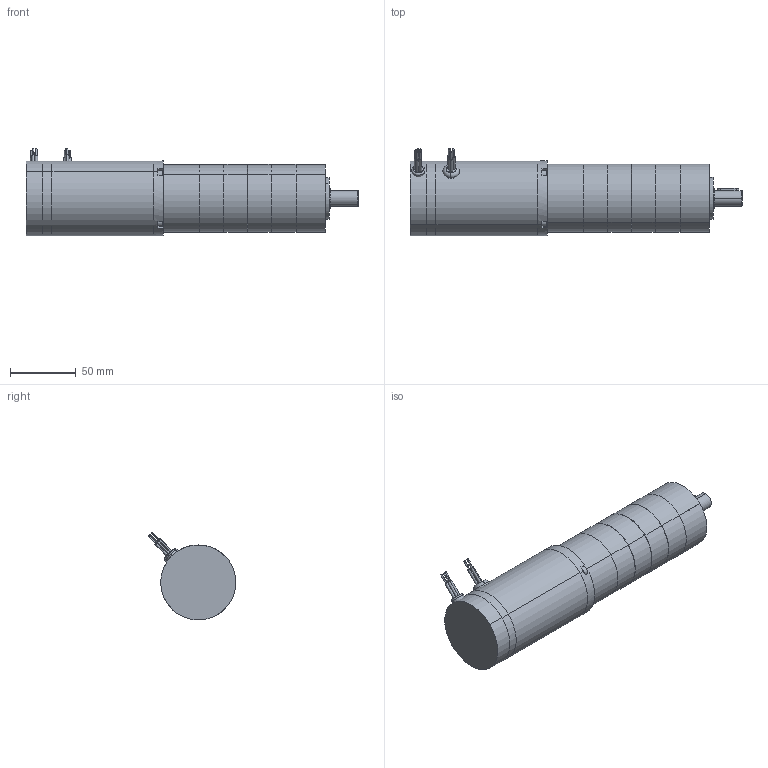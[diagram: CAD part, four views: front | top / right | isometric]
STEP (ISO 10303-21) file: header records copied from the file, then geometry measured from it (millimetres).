
FILE_DESCRIPTION (( 'STEP AP203' ), '1' );
FILE_NAME ('bl58412gp4.step', '2018-12-07T18:57:25', ( '' ), ( '' ), 'SwSTEP 2.0', 'SolidWorks 2017', '' );
FILE_SCHEMA (( 'CONFIG_CONTROL_DESIGN' ));
Length unit declared in the file: inch
Products named in the file (1): bl58412gp4
Bounding box: 253.02 x 66.83 x 67 mm (x, y, z)
Volume: 533448.8 mm3; surface area: 91384.9 mm2
Topology: 23 solids, 23 shells, 394 faces, 832 edges, 522 vertices
Faces by surface type: cylinder 162, plane 155, cone 73, torus 4
Entity records: 10698 total; most frequent: DIRECTION 1995, CARTESIAN_POINT 1861, ORIENTED_EDGE 1632, EDGE_CURVE 816, AXIS2_PLACEMENT_3D 790, VERTEX_POINT 522, EDGE_LOOP 468, LINE 415
